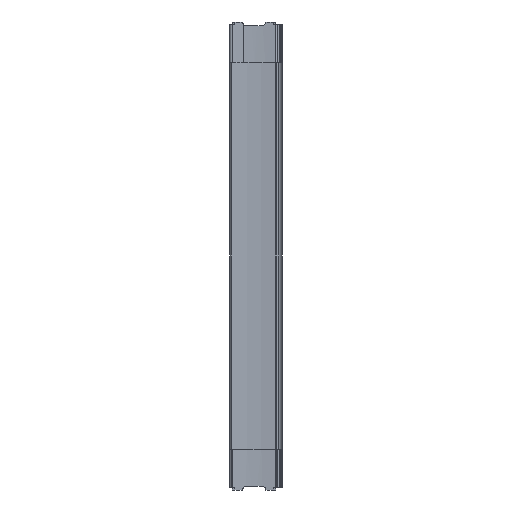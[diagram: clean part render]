
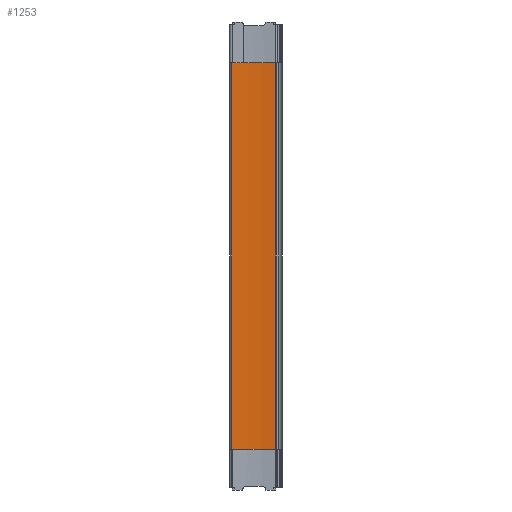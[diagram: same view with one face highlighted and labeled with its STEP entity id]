
A CAD part, left-side view. The second image highlights one B-rep face of the part: STEP entity #1253.
In plain terms, the highlighted cylindrical face has radius 250 mm (diameter 500 mm), a partial arc.
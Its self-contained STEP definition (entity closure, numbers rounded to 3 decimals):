
#73 = ORIENTED_EDGE ( 'NONE', *, *, #4291, .T. ) ;
#74 = ORIENTED_EDGE ( 'NONE', *, *, #1298, .F. ) ;
#75 = ORIENTED_EDGE ( 'NONE', *, *, #1344, .F. ) ;
#76 = ORIENTED_EDGE ( 'NONE', *, *, #4243, .F. ) ;
#660 = EDGE_LOOP ( 'NONE', ( #76, #75, #74, #73 ) ) ;
#1002 = FACE_OUTER_BOUND ( 'NONE', #660, .T. ) ;
#1005 = CYLINDRICAL_SURFACE ( 'NONE', #1553, 250. ) ;
#1080 = CIRCLE ( 'NONE', #1588, 250. ) ;
#1148 = LINE ( 'NONE', #2185, #1149 ) ;
#1149 = VECTOR ( 'NONE', #2186, 1000. ) ;
#1253 = ADVANCED_FACE ( 'NONE', ( #1002 ), #1005, .F. ) ;
#1298 = EDGE_CURVE ( 'NONE', #3804, #3713, #1080, .T. ) ;
#1344 = EDGE_CURVE ( 'NONE', #3713, #3714, #1148, .T. ) ;
#1553 = AXIS2_PLACEMENT_3D ( 'NONE', #1800, #1802, #1803 ) ;
#1588 = AXIS2_PLACEMENT_3D ( 'NONE', #2050, #2056, #2057 ) ;
#1664 = AXIS2_PLACEMENT_3D ( 'NONE', #2825, #2826, #2827 ) ;
#1800 = CARTESIAN_POINT ( 'NONE',  ( -255.319, 48.963, 248.5 ) ) ;
#1802 = DIRECTION ( 'NONE',  ( 0., 0., -1. ) ) ;
#1803 = DIRECTION ( 'NONE',  ( -1., 0., 0. ) ) ;
#2050 = CARTESIAN_POINT ( 'NONE',  ( -255.319, 48.963, 242.5 ) ) ;
#2056 = DIRECTION ( 'NONE',  ( 0., 0., -1. ) ) ;
#2057 = DIRECTION ( 'NONE',  ( 1., 0., 0. ) ) ;
#2185 = CARTESIAN_POINT ( 'NONE',  ( -8.643, 8.331, 248.5 ) ) ;
#2186 = DIRECTION ( 'NONE',  ( 0., 0., -1. ) ) ;
#2459 = CARTESIAN_POINT ( 'NONE',  ( -8.643, 8.331, 242.5 ) ) ;
#2460 = CARTESIAN_POINT ( 'NONE',  ( -8.643, 8.331, -242.5 ) ) ;
#2547 = CARTESIAN_POINT ( 'NONE',  ( -5.747, 63.571, -242.5 ) ) ;
#2549 = CARTESIAN_POINT ( 'NONE',  ( -5.747, 63.571, 242.5 ) ) ;
#2825 = CARTESIAN_POINT ( 'NONE',  ( -255.319, 48.963, -242.5 ) ) ;
#2826 = DIRECTION ( 'NONE',  ( 0., 0., 1. ) ) ;
#2827 = DIRECTION ( 'NONE',  ( -1., 0., 0. ) ) ;
#2975 = CARTESIAN_POINT ( 'NONE',  ( -5.747, 63.571, 248.5 ) ) ;
#2983 = DIRECTION ( 'NONE',  ( 0., 0., -1. ) ) ;
#3435 = VECTOR ( 'NONE', #2983, 1000. ) ;
#3437 = LINE ( 'NONE', #2975, #3435 ) ;
#3512 = CIRCLE ( 'NONE', #1664, 250. ) ;
#3713 = VERTEX_POINT ( 'NONE', #2459 ) ;
#3714 = VERTEX_POINT ( 'NONE', #2460 ) ;
#3802 = VERTEX_POINT ( 'NONE', #2547 ) ;
#3804 = VERTEX_POINT ( 'NONE', #2549 ) ;
#4243 = EDGE_CURVE ( 'NONE', #3714, #3802, #3512, .T. ) ;
#4291 = EDGE_CURVE ( 'NONE', #3804, #3802, #3437, .T. ) ;
